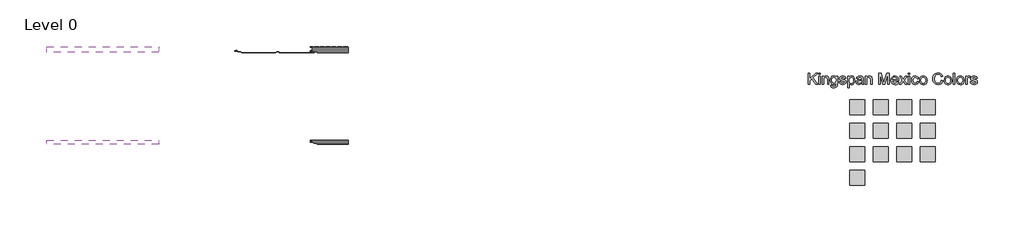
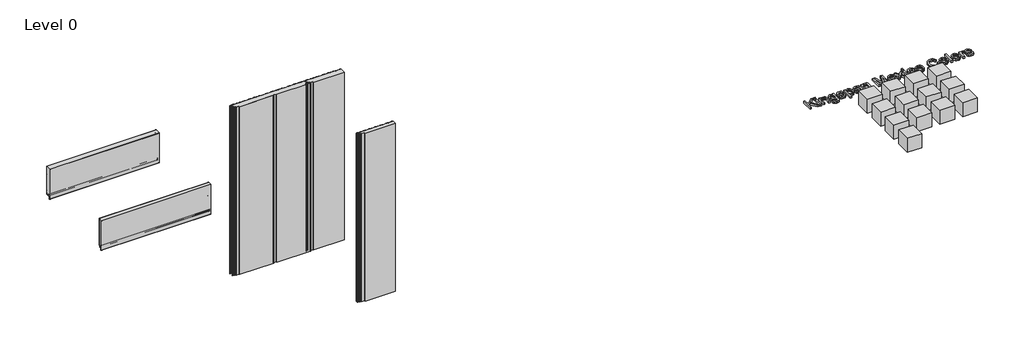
# One storey, incomplete: 14 proxies, 5 plates.
"""IFC4 building model written with IfcOpenShell, lengths in millimetres."""

from ifc_helpers import new_model, si_unit, origin, place, context, project, spatial, transform, mapped, element, save
from components import generic_models_94ed907e, ks_colour_sample_ks_colour_sample_0243efec, hz_050mm_50226ae4, hz_075mm_503976a9, vt_050mm_20076d70, vt_075mm_7d98ffc3, vt_075mm_ebfdbd6b

model = new_model("IFC4")

# Units and contexts
model_context = context("Model", 3, world=origin())
ifc_project = project(units=[si_unit("LENGTHUNIT", "METRE", prefix="MILLI")], contexts=[model_context])

# Site, building, storey
site = spatial("IfcSite", under=ifc_project)
building = spatial("IfcBuilding", under=site)
storey = spatial("IfcBuildingStorey", under=building, Name="Level 0", Elevation=0.0)

# Proxies
placement = place(None, origin())
generic_models_shape = generic_models_94ed907e(model_context)
element("IfcBuildingElementProxy", 1, Name="KIP-MX_ColourRange_English : KIP-MX_ColourRange_English", ObjectType="KIP-MX_ColourRange_English : KIP-MX_ColourRange_English", at=placement, inside=storey, context=model_context, shape_type="MappedRepresentation", body=[
    mapped(generic_models_shape, transform((1966.0629502, 11802.7493823, 0.0), x_axis=(1.0, 0.0, 0.0), y_axis=(0.0, 1.0, 0.0), z_axis=(0.0, 0.0, 1.0))),
])
ks_colour_sample_ks_colour_sample_shape = ks_colour_sample_ks_colour_sample_0243efec(model_context)
element("IfcBuildingElementProxy", 2, Name="KS_Colour Sample : KS_Colour Sample", ObjectType="KS_Colour Sample : KS_Colour Sample", at=placement, inside=storey, context=model_context, shape_type="MappedRepresentation", body=[
    mapped(ks_colour_sample_ks_colour_sample_shape, transform((1501.0629502, 13781.2299273, 0.0), x_axis=(1.0, 0.0, 0.0), y_axis=(0.0, 1.0, 0.0), z_axis=(0.0, 0.0, 1.0))),
])
element("IfcBuildingElementProxy", 3, Name="KS_Colour Sample : KS_Colour Sample", ObjectType="KS_Colour Sample : KS_Colour Sample", at=placement, inside=storey, context=model_context, shape_type="MappedRepresentation", body=[
    mapped(ks_colour_sample_ks_colour_sample_shape, transform((1811.0629502, 13781.2299273, 0.0), x_axis=(1.0, 0.0, 0.0), y_axis=(0.0, 1.0, 0.0), z_axis=(0.0, 0.0, 1.0))),
])
element("IfcBuildingElementProxy", 4, Name="KS_Colour Sample : KS_Colour Sample", ObjectType="KS_Colour Sample : KS_Colour Sample", at=placement, inside=storey, context=model_context, shape_type="MappedRepresentation", body=[
    mapped(ks_colour_sample_ks_colour_sample_shape, transform((2121.0629502, 13781.2299273, 0.0), x_axis=(1.0, 0.0, 0.0), y_axis=(0.0, 1.0, 0.0), z_axis=(0.0, 0.0, 1.0))),
])
element("IfcBuildingElementProxy", 5, Name="KS_Colour Sample : KS_Colour Sample", ObjectType="KS_Colour Sample : KS_Colour Sample", at=placement, inside=storey, context=model_context, shape_type="MappedRepresentation", body=[
    mapped(ks_colour_sample_ks_colour_sample_shape, transform((2431.0629502, 13781.2299273, 0.0), x_axis=(1.0, 0.0, 0.0), y_axis=(0.0, 1.0, 0.0), z_axis=(0.0, 0.0, 1.0))),
])
element("IfcBuildingElementProxy", 6, Name="KS_Colour Sample : KS_Colour Sample", ObjectType="KS_Colour Sample : KS_Colour Sample", at=placement, inside=storey, context=model_context, shape_type="MappedRepresentation", body=[
    mapped(ks_colour_sample_ks_colour_sample_shape, transform((1501.0629502, 13471.2299273, 0.0), x_axis=(1.0, 0.0, 0.0), y_axis=(0.0, 1.0, 0.0), z_axis=(0.0, 0.0, 1.0))),
])
element("IfcBuildingElementProxy", 7, Name="KS_Colour Sample : KS_Colour Sample", ObjectType="KS_Colour Sample : KS_Colour Sample", at=placement, inside=storey, context=model_context, shape_type="MappedRepresentation", body=[
    mapped(ks_colour_sample_ks_colour_sample_shape, transform((1811.0629502, 13471.2299273, 0.0), x_axis=(1.0, 0.0, 0.0), y_axis=(0.0, 1.0, 0.0), z_axis=(0.0, 0.0, 1.0))),
])
element("IfcBuildingElementProxy", 8, Name="KS_Colour Sample : KS_Colour Sample", ObjectType="KS_Colour Sample : KS_Colour Sample", at=placement, inside=storey, context=model_context, shape_type="MappedRepresentation", body=[
    mapped(ks_colour_sample_ks_colour_sample_shape, transform((2121.0629502, 13471.2299273, 0.0), x_axis=(1.0, 0.0, 0.0), y_axis=(0.0, 1.0, 0.0), z_axis=(0.0, 0.0, 1.0))),
])
element("IfcBuildingElementProxy", 9, Name="KS_Colour Sample : KS_Colour Sample", ObjectType="KS_Colour Sample : KS_Colour Sample", at=placement, inside=storey, context=model_context, shape_type="MappedRepresentation", body=[
    mapped(ks_colour_sample_ks_colour_sample_shape, transform((2431.0629502, 13471.2299273, 0.0), x_axis=(1.0, 0.0, 0.0), y_axis=(0.0, 1.0, 0.0), z_axis=(0.0, 0.0, 1.0))),
])
element("IfcBuildingElementProxy", 10, Name="KS_Colour Sample : KS_Colour Sample", ObjectType="KS_Colour Sample : KS_Colour Sample", at=placement, inside=storey, context=model_context, shape_type="MappedRepresentation", body=[
    mapped(ks_colour_sample_ks_colour_sample_shape, transform((1501.0629502, 13161.2299273, 0.0), x_axis=(1.0, 0.0, 0.0), y_axis=(0.0, 1.0, 0.0), z_axis=(0.0, 0.0, 1.0))),
])
element("IfcBuildingElementProxy", 11, Name="KS_Colour Sample : KS_Colour Sample", ObjectType="KS_Colour Sample : KS_Colour Sample", at=placement, inside=storey, context=model_context, shape_type="MappedRepresentation", body=[
    mapped(ks_colour_sample_ks_colour_sample_shape, transform((1811.0629502, 13161.2299273, 0.0), x_axis=(1.0, 0.0, 0.0), y_axis=(0.0, 1.0, 0.0), z_axis=(0.0, 0.0, 1.0))),
])
element("IfcBuildingElementProxy", 12, Name="KS_Colour Sample : KS_Colour Sample", ObjectType="KS_Colour Sample : KS_Colour Sample", at=placement, inside=storey, context=model_context, shape_type="MappedRepresentation", body=[
    mapped(ks_colour_sample_ks_colour_sample_shape, transform((2121.0629502, 13161.2299273, 0.0), x_axis=(1.0, 0.0, 0.0), y_axis=(0.0, 1.0, 0.0), z_axis=(0.0, 0.0, 1.0))),
])
element("IfcBuildingElementProxy", 13, Name="KS_Colour Sample : KS_Colour Sample", ObjectType="KS_Colour Sample : KS_Colour Sample", at=placement, inside=storey, context=model_context, shape_type="MappedRepresentation", body=[
    mapped(ks_colour_sample_ks_colour_sample_shape, transform((2431.0629502, 13161.2299273, 0.0), x_axis=(1.0, 0.0, 0.0), y_axis=(0.0, 1.0, 0.0), z_axis=(0.0, 0.0, 1.0))),
])
element("IfcBuildingElementProxy", 14, Name="KS_Colour Sample : KS_Colour Sample", ObjectType="KS_Colour Sample : KS_Colour Sample", at=placement, inside=storey, context=model_context, shape_type="MappedRepresentation", body=[
    mapped(ks_colour_sample_ks_colour_sample_shape, transform((1501.0629502, 12851.2299273, 0.0), x_axis=(1.0, 0.0, 0.0), y_axis=(0.0, 1.0, 0.0), z_axis=(0.0, 0.0, 1.0))),
])

# Plates
hz_050mm_shape = hz_050mm_50226ae4(model_context)
element("IfcPlate", 15, ObjectType="KIP-MEX-KW-R19-CP-Hz-KW1_SL : Hz 050mm", at=placement, inside=storey, context=model_context, shape_type="MappedRepresentation", body=[
    mapped(hz_050mm_shape, transform((-8438.7250935, 13346.6881223, 2000.0), x_axis=(1.0, 0.0, 0.0), y_axis=(0.0, 1.0, 0.0), z_axis=(0.0, 0.0, 1.0))),
])
hz_075mm_shape = hz_075mm_503976a9(model_context)
element("IfcPlate", 16, ObjectType="KIP-MEX-KW-R19-CP-Hz-KW1_SL : Hz 075mm", at=placement, inside=storey, context=model_context, shape_type="MappedRepresentation", body=[
    mapped(hz_075mm_shape, transform((-8438.7250935, 14580.6646856, 2000.0), x_axis=(1.0, 0.0, 0.0), y_axis=(0.0, 1.0, 0.0), z_axis=(0.0, 0.0, 1.0))),
])
vt_050mm_shape = vt_050mm_20076d70(model_context)
element("IfcPlate", 17, ObjectType="KIP-MEX-KW-R19-CP-Vt-KW1_SL : Vt 050mm", at=placement, inside=storey, context=model_context, shape_type="MappedRepresentation", body=[
    mapped(vt_050mm_shape, transform((-5438.9413834, 13346.6881223, 0.0), x_axis=(1.0, 0.0, 0.0), y_axis=(0.0, 1.0, 0.0), z_axis=(0.0, 0.0, 1.0))),
])
vt_075mm_shape = vt_075mm_7d98ffc3(model_context)
element("IfcPlate", 18, ObjectType="KIP-MEX-KW-R19-CP-Vt-KW1_SL : Vt 075mm", at=placement, inside=storey, context=model_context, shape_type="MappedRepresentation", body=[
    mapped(vt_075mm_shape, transform((-6178.9413834, 14575.4926205, 0.0), x_axis=(1.0, 0.0, 0.0), y_axis=(0.0, 1.0, 0.0), z_axis=(0.0, 0.0, 1.0))),
])
vt_075mm_2_shape = vt_075mm_ebfdbd6b(model_context)
element("IfcPlate", 19, ObjectType="KIP-MEX-KW-R19-CP-Vt-KW1_SL : Vt 075mm", at=placement, inside=storey, context=model_context, shape_type="MappedRepresentation", body=[
    mapped(vt_075mm_2_shape, transform((-5438.9413834, 14575.4926205, 0.0), x_axis=(1.0, 0.0, 0.0), y_axis=(0.0, 1.0, 0.0), z_axis=(0.0, 0.0, 1.0))),
])

save(model, "model.ifc")
